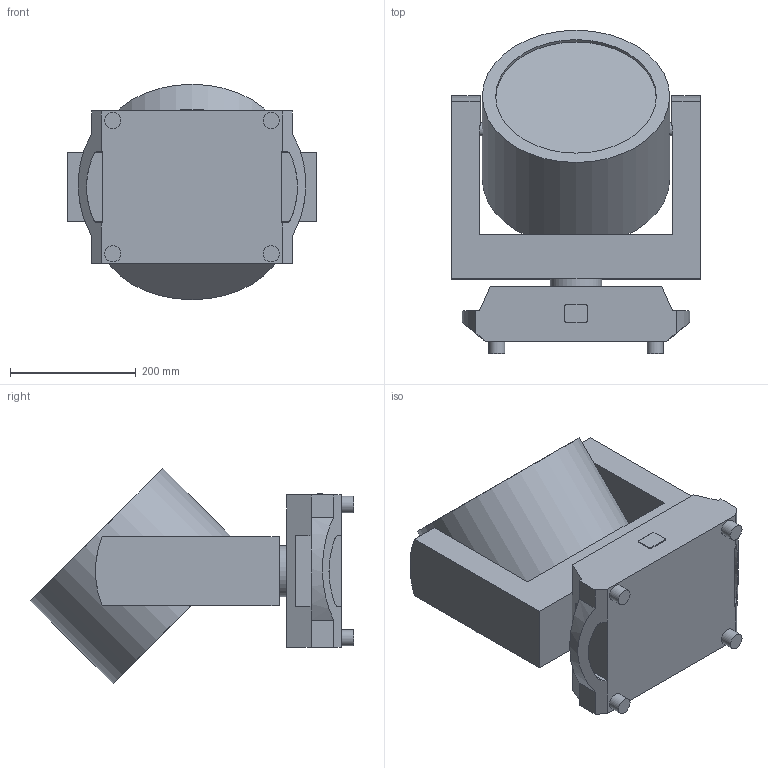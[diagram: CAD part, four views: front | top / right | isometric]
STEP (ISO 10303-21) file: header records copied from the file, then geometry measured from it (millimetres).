
FILE_DESCRIPTION(/* description */ (''),/* implementation_level */ '2;1');
FILE_NAME(/* name */ 'ROGUEOUTCAST3XWASH_45.stp',/* time_stamp */ '2025-10-20T15:46:40-04:00',/* author */ ('chenry'),/* organization */ (''),/* preprocessor_version */ 'ST-DEVELOPER v20',/* originating_system */ 'Autodesk Inventor 2024',/* authorisation */ '');
FILE_SCHEMA (('AUTOMOTIVE_DESIGN { 1 0 10303 214 3 1 1 }'));
Length unit declared in the file: millimetre
Products named in the file (4): ROIP-3720W-00_ASM; arm; head; base
Assembly tree (3 placements, depth 2):
  ROIP-3720W-00_ASM
    arm
    head
    base
Bounding box: 395.28 x 514.57 x 342.59 mm (x, y, z)
Volume: 24386171.3 mm3; surface area: 887854.9 mm2
Topology: 3 solids, 3 shells, 74 faces, 184 edges, 123 vertices
Faces by surface type: plane 47, cylinder 27
Full cylindrical faces by diameter (mm): 21 x3, 26 x4, 81.8 x2, 255.658 x1, 298 x1
Entity records: 2427 total; most frequent: CARTESIAN_POINT 422, DIRECTION 405, ORIENTED_EDGE 368, EDGE_CURVE 184, AXIS2_PLACEMENT_3D 142, VERTEX_POINT 123, LINE 121, VECTOR 121
